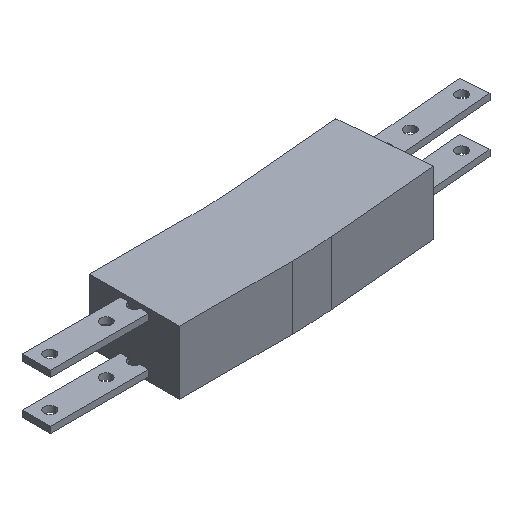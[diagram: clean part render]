
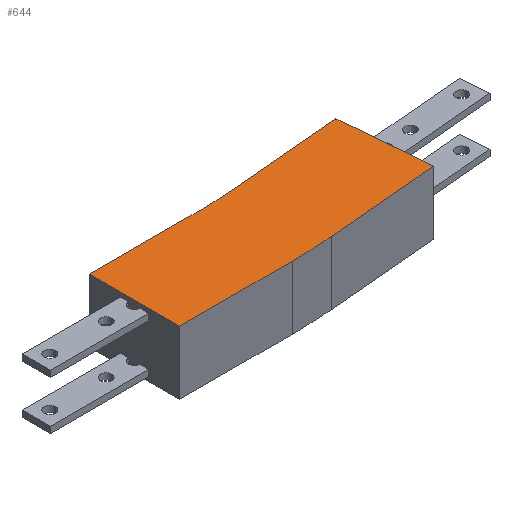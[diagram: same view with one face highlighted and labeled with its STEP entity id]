
A CAD part, isometric view. The second image highlights one B-rep face of the part: STEP entity #644.
In plain terms, the highlighted planar face has unit normal (0, 0, 1).
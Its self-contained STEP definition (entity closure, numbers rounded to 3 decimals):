
#477 = VERTEX_POINT ( 'NONE', #1629 ) ;
#478 = ORIENTED_EDGE ( 'NONE', *, *, #479, .F. ) ;
#479 = EDGE_CURVE ( 'NONE', #480, #477, #1522, .T. ) ;
#480 = VERTEX_POINT ( 'NONE', #1517 ) ;
#485 = ORIENTED_EDGE ( 'NONE', *, *, #854, .F. ) ;
#538 = EDGE_LOOP ( 'NONE', ( #485, #745, #478, #616, #619, #622, #625, #628 ) ) ;
#616 = ORIENTED_EDGE ( 'NONE', *, *, #617, .F. ) ;
#617 = EDGE_CURVE ( 'NONE', #618, #480, #1545, .T. ) ;
#618 = VERTEX_POINT ( 'NONE', #1541 ) ;
#619 = ORIENTED_EDGE ( 'NONE', *, *, #620, .F. ) ;
#620 = EDGE_CURVE ( 'NONE', #621, #618, #1160, .T. ) ;
#621 = VERTEX_POINT ( 'NONE', #1720 ) ;
#622 = ORIENTED_EDGE ( 'NONE', *, *, #623, .F. ) ;
#623 = EDGE_CURVE ( 'NONE', #624, #621, #1736, .T. ) ;
#624 = VERTEX_POINT ( 'NONE', #1719 ) ;
#625 = ORIENTED_EDGE ( 'NONE', *, *, #626, .F. ) ;
#626 = EDGE_CURVE ( 'NONE', #627, #624, #1717, .T. ) ;
#627 = VERTEX_POINT ( 'NONE', #1738 ) ;
#628 = ORIENTED_EDGE ( 'NONE', *, *, #629, .F. ) ;
#629 = EDGE_CURVE ( 'NONE', #769, #627, #1743, .T. ) ;
#644 = ADVANCED_FACE ( 'NONE', ( #1776 ), #1774, .T. ) ;
#745 = ORIENTED_EDGE ( 'NONE', *, *, #770, .F. ) ;
#769 = VERTEX_POINT ( 'NONE', #1755 ) ;
#770 = EDGE_CURVE ( 'NONE', #477, #855, #1754, .T. ) ;
#854 = EDGE_CURVE ( 'NONE', #855, #769, #1750, .T. ) ;
#855 = VERTEX_POINT ( 'NONE', #1745 ) ;
#1160 = LINE ( 'NONE', #1446, #1445 ) ;
#1445 = VECTOR ( 'NONE', #1737, 1000. ) ;
#1446 = CARTESIAN_POINT ( 'NONE',  ( 3674.653, -2367.008, 238.7 ) ) ;
#1517 = CARTESIAN_POINT ( 'NONE',  ( 3600.536, -2437.737, 238.7 ) ) ;
#1518 = DIRECTION ( 'NONE',  ( 1., 0., 0. ) ) ;
#1519 = DIRECTION ( 'NONE',  ( 0., 0., -1. ) ) ;
#1520 = CARTESIAN_POINT ( 'NONE',  ( 3571.6, -2107., 238.7 ) ) ;
#1521 = AXIS2_PLACEMENT_3D ( 'NONE', #1520, #1519, #1518 ) ;
#1522 = CIRCLE ( 'NONE', #1521, 332. ) ;
#1541 = CARTESIAN_POINT ( 'NONE',  ( 3680.231, -2430.764, 238.7 ) ) ;
#1542 = DIRECTION ( 'NONE',  ( -0.996, -0.087, 0. ) ) ;
#1543 = VECTOR ( 'NONE', #1542, 1000. ) ;
#1544 = CARTESIAN_POINT ( 'NONE',  ( 3680.231, -2430.764, 238.7 ) ) ;
#1545 = LINE ( 'NONE', #1544, #1543 ) ;
#1629 = CARTESIAN_POINT ( 'NONE',  ( 3571.6, -2439., 238.7 ) ) ;
#1715 = DIRECTION ( 'NONE',  ( 0., 0., 1. ) ) ;
#1716 = AXIS2_PLACEMENT_3D ( 'NONE', #1718, #1715, #1739 ) ;
#1717 = CIRCLE ( 'NONE', #1716, 268. ) ;
#1718 = CARTESIAN_POINT ( 'NONE',  ( 3571.6, -2107., 238.7 ) ) ;
#1719 = CARTESIAN_POINT ( 'NONE',  ( 3594.958, -2373.98, 238.7 ) ) ;
#1720 = CARTESIAN_POINT ( 'NONE',  ( 3674.653, -2367.008, 238.7 ) ) ;
#1735 = CARTESIAN_POINT ( 'NONE',  ( 3594.958, -2373.98, 238.7 ) ) ;
#1736 = LINE ( 'NONE', #1735, #1761 ) ;
#1737 = DIRECTION ( 'NONE',  ( 0.087, -0.996, 0. ) ) ;
#1738 = CARTESIAN_POINT ( 'NONE',  ( 3571.6, -2375., 238.7 ) ) ;
#1739 = DIRECTION ( 'NONE',  ( 1., 0., 0. ) ) ;
#1740 = DIRECTION ( 'NONE',  ( 1., 0., 0. ) ) ;
#1741 = VECTOR ( 'NONE', #1740, 1000. ) ;
#1742 = CARTESIAN_POINT ( 'NONE',  ( 3491.6, -2375., 238.7 ) ) ;
#1743 = LINE ( 'NONE', #1742, #1741 ) ;
#1745 = CARTESIAN_POINT ( 'NONE',  ( 3491.6, -2439., 238.7 ) ) ;
#1747 = DIRECTION ( 'NONE',  ( 0., 1., 0. ) ) ;
#1748 = VECTOR ( 'NONE', #1747, 1000. ) ;
#1749 = CARTESIAN_POINT ( 'NONE',  ( 3491.6, -2439., 238.7 ) ) ;
#1750 = LINE ( 'NONE', #1749, #1748 ) ;
#1751 = DIRECTION ( 'NONE',  ( -1., 0., 0. ) ) ;
#1752 = VECTOR ( 'NONE', #1751, 1000. ) ;
#1753 = CARTESIAN_POINT ( 'NONE',  ( 3571.6, -2439., 238.7 ) ) ;
#1754 = LINE ( 'NONE', #1753, #1752 ) ;
#1755 = CARTESIAN_POINT ( 'NONE',  ( 3491.6, -2375., 238.7 ) ) ;
#1760 = DIRECTION ( 'NONE',  ( 0.996, 0.087, 0. ) ) ;
#1761 = VECTOR ( 'NONE', #1760, 1000. ) ;
#1770 = DIRECTION ( 'NONE',  ( 0., -1., 0. ) ) ;
#1771 = DIRECTION ( 'NONE',  ( 0., 0., 1. ) ) ;
#1772 = CARTESIAN_POINT ( 'NONE',  ( 3584.602, -2404.797, 238.7 ) ) ;
#1773 = AXIS2_PLACEMENT_3D ( 'NONE', #1772, #1771, #1770 ) ;
#1774 = PLANE ( 'NONE',  #1773 ) ;
#1776 = FACE_OUTER_BOUND ( 'NONE', #538, .T. ) ;
